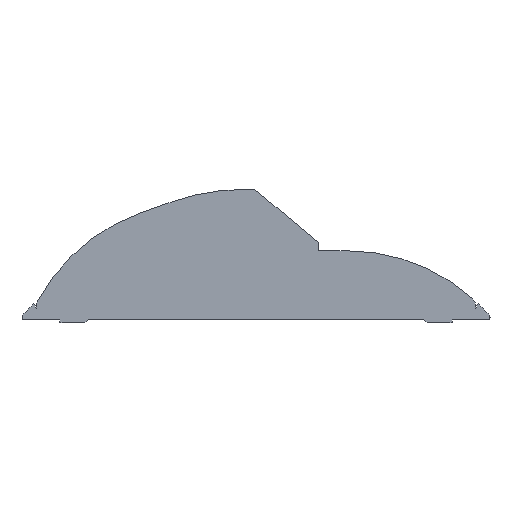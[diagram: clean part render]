
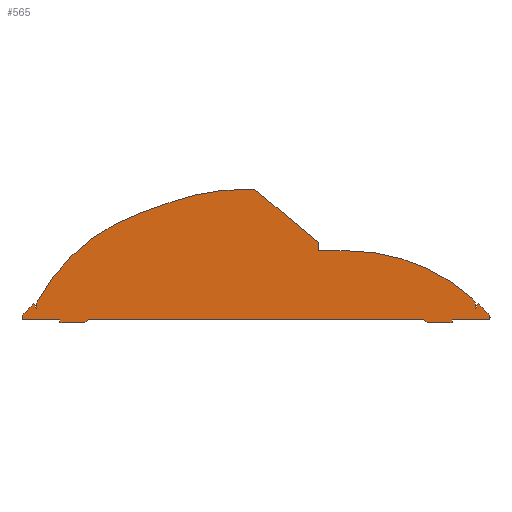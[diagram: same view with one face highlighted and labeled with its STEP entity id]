
A CAD part, left-side view. The second image highlights one B-rep face of the part: STEP entity #565.
In plain terms, the highlighted planar face has unit normal (-1, 0, 0).
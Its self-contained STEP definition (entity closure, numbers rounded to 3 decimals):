
#21=CIRCLE('',#591,162.1);
#23=CIRCLE('',#595,136.54);
#24=CIRCLE('',#598,7.3);
#26=CIRCLE('',#606,136.5);
#29=CIRCLE('',#612,7.3);
#30=CIRCLE('',#614,136.5);
#33=CIRCLE('',#618,136.5);
#35=CIRCLE('',#621,6.);
#39=CIRCLE('',#627,2.);
#40=CIRCLE('',#628,6.);
#41=CIRCLE('',#629,2.);
#160=ORIENTED_EDGE('',*,*,#235,.F.);
#161=ORIENTED_EDGE('',*,*,#218,.T.);
#162=ORIENTED_EDGE('',*,*,#221,.T.);
#163=ORIENTED_EDGE('',*,*,#224,.T.);
#164=ORIENTED_EDGE('',*,*,#227,.T.);
#165=ORIENTED_EDGE('',*,*,#230,.T.);
#166=ORIENTED_EDGE('',*,*,#233,.T.);
#167=ORIENTED_EDGE('',*,*,#237,.F.);
#168=ORIENTED_EDGE('',*,*,#242,.F.);
#169=ORIENTED_EDGE('',*,*,#245,.F.);
#170=ORIENTED_EDGE('',*,*,#273,.F.);
#171=ORIENTED_EDGE('',*,*,#284,.T.);
#172=ORIENTED_EDGE('',*,*,#285,.F.);
#173=ORIENTED_EDGE('',*,*,#286,.T.);
#174=ORIENTED_EDGE('',*,*,#287,.T.);
#175=ORIENTED_EDGE('',*,*,#288,.T.);
#176=ORIENTED_EDGE('',*,*,#289,.F.);
#177=ORIENTED_EDGE('',*,*,#276,.F.);
#178=ORIENTED_EDGE('',*,*,#247,.F.);
#179=ORIENTED_EDGE('',*,*,#251,.F.);
#180=ORIENTED_EDGE('',*,*,#255,.F.);
#181=ORIENTED_EDGE('',*,*,#290,.T.);
#182=ORIENTED_EDGE('',*,*,#256,.F.);
#183=ORIENTED_EDGE('',*,*,#262,.F.);
#184=ORIENTED_EDGE('',*,*,#265,.F.);
#185=ORIENTED_EDGE('',*,*,#268,.F.);
#186=ORIENTED_EDGE('',*,*,#269,.F.);
#218=EDGE_CURVE('',#297,#299,#353,.T.);
#221=EDGE_CURVE('',#299,#301,#356,.T.);
#224=EDGE_CURVE('',#301,#303,#359,.T.);
#227=EDGE_CURVE('',#303,#305,#21,.T.);
#230=EDGE_CURVE('',#305,#307,#363,.T.);
#233=EDGE_CURVE('',#307,#309,#23,.T.);
#235=EDGE_CURVE('',#297,#311,#366,.T.);
#237=EDGE_CURVE('',#312,#309,#24,.T.);
#242=EDGE_CURVE('',#315,#312,#371,.T.);
#245=EDGE_CURVE('',#317,#315,#374,.T.);
#247=EDGE_CURVE('',#318,#320,#376,.T.);
#251=EDGE_CURVE('',#322,#318,#380,.T.);
#255=EDGE_CURVE('',#325,#322,#384,.T.);
#256=EDGE_CURVE('',#326,#327,#26,.T.);
#262=EDGE_CURVE('',#331,#326,#389,.T.);
#265=EDGE_CURVE('',#333,#331,#392,.T.);
#268=EDGE_CURVE('',#335,#333,#29,.T.);
#269=EDGE_CURVE('',#311,#335,#30,.T.);
#273=EDGE_CURVE('',#337,#317,#33,.T.);
#276=EDGE_CURVE('',#320,#339,#35,.T.);
#284=EDGE_CURVE('',#337,#345,#39,.F.);
#285=EDGE_CURVE('',#346,#345,#400,.T.);
#286=EDGE_CURVE('',#346,#347,#401,.T.);
#287=EDGE_CURVE('',#347,#348,#402,.T.);
#288=EDGE_CURVE('',#348,#349,#40,.F.);
#289=EDGE_CURVE('',#339,#349,#403,.T.);
#290=EDGE_CURVE('',#325,#327,#41,.F.);
#297=VERTEX_POINT('',#804);
#299=VERTEX_POINT('',#808);
#301=VERTEX_POINT('',#814);
#303=VERTEX_POINT('',#820);
#305=VERTEX_POINT('',#826);
#307=VERTEX_POINT('',#832);
#309=VERTEX_POINT('',#838);
#311=VERTEX_POINT('',#844);
#312=VERTEX_POINT('',#848);
#315=VERTEX_POINT('',#856);
#317=VERTEX_POINT('',#862);
#318=VERTEX_POINT('',#866);
#320=VERTEX_POINT('',#869);
#322=VERTEX_POINT('',#875);
#325=VERTEX_POINT('',#883);
#326=VERTEX_POINT('',#887);
#327=VERTEX_POINT('',#888);
#331=VERTEX_POINT('',#898);
#333=VERTEX_POINT('',#904);
#335=VERTEX_POINT('',#910);
#337=VERTEX_POINT('',#919);
#339=VERTEX_POINT('',#924);
#345=VERTEX_POINT('',#942);
#346=VERTEX_POINT('',#944);
#347=VERTEX_POINT('',#946);
#348=VERTEX_POINT('',#948);
#349=VERTEX_POINT('',#950);
#353=LINE('',#809,#412);
#356=LINE('',#815,#415);
#359=LINE('',#821,#418);
#363=LINE('',#833,#422);
#366=LINE('',#843,#425);
#371=LINE('',#857,#430);
#374=LINE('',#863,#433);
#376=LINE('',#868,#435);
#380=LINE('',#877,#439);
#384=LINE('',#884,#443);
#389=LINE('',#899,#448);
#392=LINE('',#905,#451);
#400=LINE('',#943,#459);
#401=LINE('',#945,#460);
#402=LINE('',#947,#461);
#403=LINE('',#951,#462);
#412=VECTOR('',#644,1000.);
#415=VECTOR('',#649,1000.);
#418=VECTOR('',#654,1000.);
#422=VECTOR('',#666,1000.);
#425=VECTOR('',#677,1000.);
#430=VECTOR('',#690,1000.);
#433=VECTOR('',#695,1000.);
#435=VECTOR('',#699,1000.);
#439=VECTOR('',#705,1000.);
#443=VECTOR('',#711,1000.);
#448=VECTOR('',#724,1000.);
#451=VECTOR('',#729,1000.);
#459=VECTOR('',#773,1000.);
#460=VECTOR('',#774,1000.);
#461=VECTOR('',#775,1000.);
#462=VECTOR('',#778,1000.);
#489=EDGE_LOOP('',(#160,#161,#162,#163,#164,#165,#166,#167,#168,#169,#170,
#171,#172,#173,#174,#175,#176,#177,#178,#179,#180,#181,#182,#183,#184,#185,
#186));
#518=FACE_BOUND('',#489,.T.);
#539=PLANE('',#626);
#565=ADVANCED_FACE('',(#518),#539,.F.);
#591=AXIS2_PLACEMENT_3D('',#827,#660,#661);
#595=AXIS2_PLACEMENT_3D('',#839,#672,#673);
#598=AXIS2_PLACEMENT_3D('',#847,#681,#682);
#606=AXIS2_PLACEMENT_3D('',#886,#714,#715);
#612=AXIS2_PLACEMENT_3D('',#911,#735,#736);
#614=AXIS2_PLACEMENT_3D('',#913,#739,#740);
#618=AXIS2_PLACEMENT_3D('',#920,#748,#749);
#621=AXIS2_PLACEMENT_3D('',#926,#755,#756);
#626=AXIS2_PLACEMENT_3D('',#940,#769,#770);
#627=AXIS2_PLACEMENT_3D('',#941,#771,#772);
#628=AXIS2_PLACEMENT_3D('',#949,#776,#777);
#629=AXIS2_PLACEMENT_3D('',#952,#779,#780);
#644=DIRECTION('',(0.,0.,1.));
#649=DIRECTION('',(0.,0.766,0.643));
#654=DIRECTION('',(0.,1.,0.));
#660=DIRECTION('',(-1.,0.,0.));
#661=DIRECTION('',(0.,1.,0.));
#666=DIRECTION('',(0.,0.942,-0.336));
#672=DIRECTION('',(-1.,0.,0.));
#673=DIRECTION('',(0.,1.,0.));
#677=DIRECTION('',(0.,-1.,0.));
#681=DIRECTION('',(1.,0.,0.));
#682=DIRECTION('',(0.,1.,0.));
#690=DIRECTION('',(0.,-0.087,0.996));
#695=DIRECTION('',(0.,-0.5,-0.866));
#699=DIRECTION('',(0.,1.,0.));
#705=DIRECTION('',(0.,0.,-1.));
#711=DIRECTION('',(0.,1.,0.));
#714=DIRECTION('',(1.,0.,0.));
#715=DIRECTION('',(0.,1.,0.));
#724=DIRECTION('',(0.,-0.5,0.866));
#729=DIRECTION('',(0.,-0.087,-0.996));
#735=DIRECTION('',(1.,0.,0.));
#736=DIRECTION('',(0.,1.,0.));
#739=DIRECTION('',(1.,0.,0.));
#740=DIRECTION('',(0.,1.,0.));
#748=DIRECTION('',(1.,0.,0.));
#749=DIRECTION('',(0.,1.,0.));
#755=DIRECTION('',(1.,0.,0.));
#756=DIRECTION('',(0.,1.,0.));
#769=DIRECTION('',(1.,0.,0.));
#770=DIRECTION('',(0.,1.,0.));
#771=DIRECTION('',(1.,0.,0.));
#772=DIRECTION('',(0.,1.,0.));
#773=DIRECTION('',(0.,1.,0.));
#774=DIRECTION('',(0.,0.,-1.));
#775=DIRECTION('',(0.,-1.,0.));
#776=DIRECTION('',(1.,0.,0.));
#777=DIRECTION('',(0.,1.,0.));
#778=DIRECTION('',(0.,1.,0.));
#779=DIRECTION('',(1.,0.,0.));
#780=DIRECTION('',(0.,1.,0.));
#804=CARTESIAN_POINT('',(-1229.,-45.06,50.));
#808=CARTESIAN_POINT('',(-1229.,-45.06,55.96));
#809=CARTESIAN_POINT('',(-1229.,-45.06,50.));
#814=CARTESIAN_POINT('',(-1229.,0.823,94.46));
#815=CARTESIAN_POINT('',(-1229.,-45.06,55.96));
#820=CARTESIAN_POINT('',(-1229.,7.7,94.46));
#821=CARTESIAN_POINT('',(-1229.,0.823,94.46));
#826=CARTESIAN_POINT('',(-1229.,62.2,85.024));
#827=CARTESIAN_POINT('',(-1229.,7.7,-67.64));
#832=CARTESIAN_POINT('',(-1229.,83.716,77.343));
#833=CARTESIAN_POINT('',(-1229.,62.2,85.024));
#838=CARTESIAN_POINT('',(-1229.,157.757,13.988));
#839=CARTESIAN_POINT('',(-1229.,37.81,-51.249));
#843=CARTESIAN_POINT('',(-1229.,66.,50.));
#844=CARTESIAN_POINT('',(-1229.,-66.,50.));
#847=CARTESIAN_POINT('',(-1229.,151.344,10.5));
#848=CARTESIAN_POINT('',(-1229.,158.616,11.136));
#856=CARTESIAN_POINT('',(-1229.,158.852,8.447));
#857=CARTESIAN_POINT('',(-1229.,158.616,11.136));
#862=CARTESIAN_POINT('',(-1229.,160.759,11.75));
#863=CARTESIAN_POINT('',(-1229.,158.852,8.447));
#866=CARTESIAN_POINT('',(-1229.,-141.8,-2.));
#868=CARTESIAN_POINT('',(-1229.,-141.8,-2.));
#869=CARTESIAN_POINT('',(-1229.,-125.7,-2.));
#875=CARTESIAN_POINT('',(-1229.,-141.8,0.));
#877=CARTESIAN_POINT('',(-1229.,-141.8,0.));
#883=CARTESIAN_POINT('',(-1229.,-167.282,0.));
#884=CARTESIAN_POINT('',(-1229.,-171.594,0.));
#886=CARTESIAN_POINT('',(-1229.,-66.,-86.5));
#887=CARTESIAN_POINT('',(-1229.,-160.759,11.75));
#888=CARTESIAN_POINT('',(-1229.,-168.788,3.316));
#898=CARTESIAN_POINT('',(-1229.,-158.852,8.447));
#899=CARTESIAN_POINT('',(-1229.,-158.852,8.447));
#904=CARTESIAN_POINT('',(-1229.,-158.616,11.136));
#905=CARTESIAN_POINT('',(-1229.,-158.616,11.136));
#910=CARTESIAN_POINT('',(-1229.,-156.166,15.981));
#911=CARTESIAN_POINT('',(-1229.,-151.344,10.5));
#913=CARTESIAN_POINT('',(-1229.,-66.,-86.5));
#919=CARTESIAN_POINT('',(-1229.,168.788,3.316));
#920=CARTESIAN_POINT('',(-1229.,66.,-86.5));
#924=CARTESIAN_POINT('',(-1229.,-121.228,0.));
#926=CARTESIAN_POINT('',(-1229.,-125.7,4.));
#940=CARTESIAN_POINT('',(-1229.,66.,-86.5));
#941=CARTESIAN_POINT('',(-1229.,167.282,2.));
#942=CARTESIAN_POINT('',(-1229.,167.282,0.));
#943=CARTESIAN_POINT('',(-1229.,-171.594,0.));
#944=CARTESIAN_POINT('',(-1229.,141.8,0.));
#945=CARTESIAN_POINT('',(-1229.,141.8,0.));
#946=CARTESIAN_POINT('',(-1229.,141.8,-2.));
#947=CARTESIAN_POINT('',(-1229.,141.8,-2.));
#948=CARTESIAN_POINT('',(-1229.,125.7,-2.));
#949=CARTESIAN_POINT('',(-1229.,125.7,4.));
#950=CARTESIAN_POINT('',(-1229.,121.228,0.));
#951=CARTESIAN_POINT('',(-1229.,-171.594,0.));
#952=CARTESIAN_POINT('',(-1229.,-167.282,2.));
